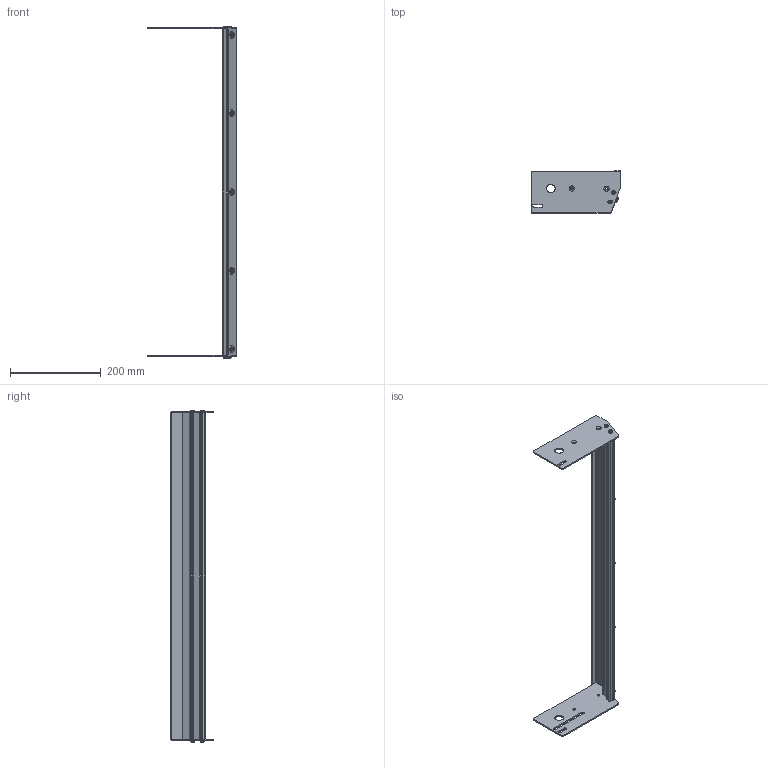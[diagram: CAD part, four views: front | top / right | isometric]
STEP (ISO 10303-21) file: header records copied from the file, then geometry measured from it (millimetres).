
FILE_DESCRIPTION((''),'2;1');
FILE_NAME('351199-28_ASM','2023-03-15T',('jenni.wallner'),(''),'PRO/ENGINEER BY PARAMETRIC TECHNOLOGY CORPORATION, 2012420','PRO/ENGINEER BY PARAMETRIC TECHNOLOGY CORPORATION, 2012420','');
FILE_SCHEMA(('CONFIG_CONTROL_DESIGN'));
Length unit declared in the file: inch
Products named in the file (10): 605279P; 9505XXM_950512M; 9506XXM_950612M; 351201; 990603M; 351202-WW_351202-28; 351203-WW_351203-28; 351200_DEFAULT_AS_MACHINED_; ASM0001_ASM; 351199-28_ASM
Assembly tree (24 placements, depth 3):
  351199-28_ASM
    ASM0001_ASM
      605279P  x5
      9505XXM_950512M  x4
      9506XXM_950612M  x5
      351201
      990603M  x5
      351202-WW_351202-28
      351203-WW_351203-28
      351200_DEFAULT_AS_MACHINED_
Bounding box: 196.11 x 93.08 x 730.29 mm (x, y, z)
Volume: 390629.8 mm3; surface area: 317192 mm2
Topology: 23 solids, 23 shells, 460 faces, 1088 edges, 692 vertices
Faces by surface type: plane 210, cylinder 158, cone 92
Entity records: 8184 total; most frequent: CARTESIAN_POINT 1511, DIRECTION 1469, ORIENTED_EDGE 1274, EDGE_CURVE 637, AXIS2_PLACEMENT_3D 554, VERTEX_POINT 416, VECTOR 361, LINE 361
